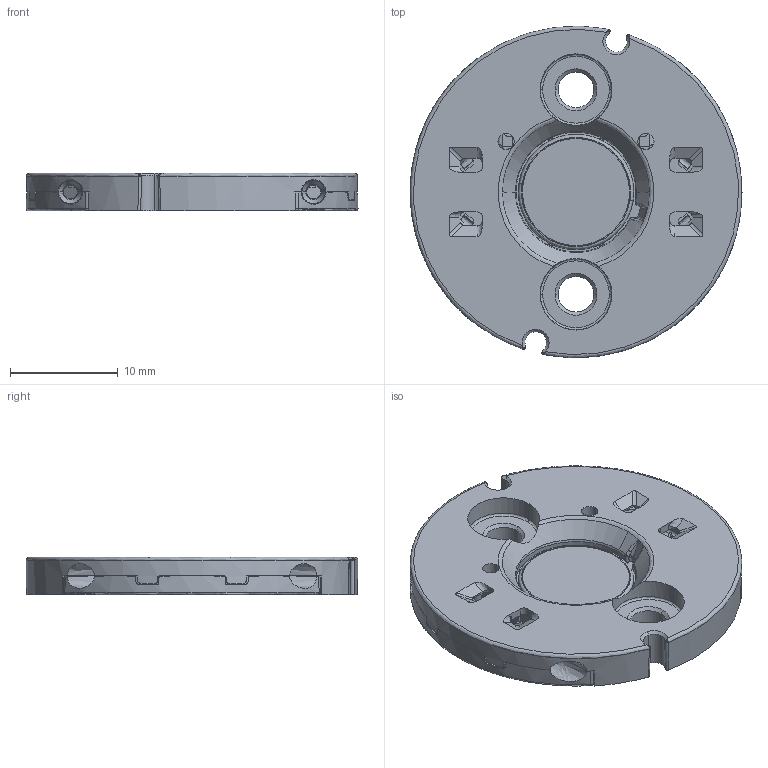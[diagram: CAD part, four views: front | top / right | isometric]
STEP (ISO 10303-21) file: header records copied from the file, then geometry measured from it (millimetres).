
FILE_DESCRIPTION (( 'STEP AP214' ), '1' );
FILE_NAME ('Vero10 SE.STEP', '2020-09-04T01:39:51', ( '' ), ( '' ), 'SwSTEP 2.0', 'SolidWorks 2018', '' );
FILE_SCHEMA (( 'AUTOMOTIVE_DESIGN' ));
Length unit declared in the file: millimetre
Products named in the file (1): Vero10 SE
Bounding box: 30.85 x 30.81 x 3.5 mm (x, y, z)
Volume: 1725.9 mm3; surface area: 4263.3 mm2
Topology: 8 solids, 8 shells, 2041 faces, 5543 edges, 3573 vertices
Faces by surface type: bspline 1143, plane 855, cylinder 37, torus 6
Entity records: 96347 total; most frequent: CARTESIAN_POINT 28082, ORIENTED_EDGE 11082, DIRECTION 7615, EDGE_CURVE 5541, VERTEX_POINT 3573, LINE 2777, VECTOR 2777, AXIS2_PLACEMENT_3D 2419
